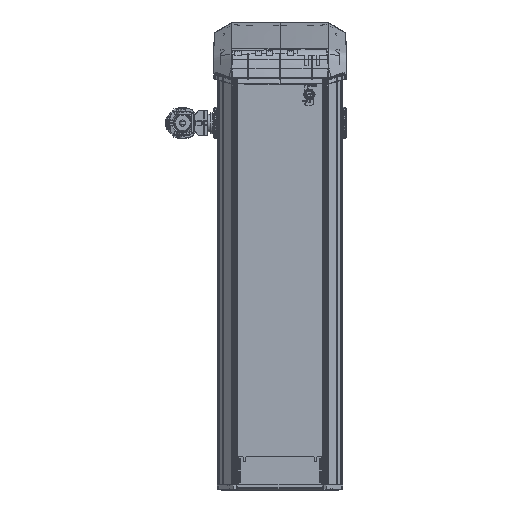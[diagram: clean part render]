
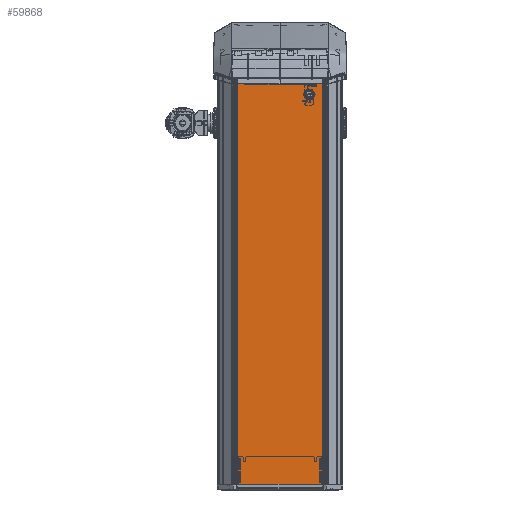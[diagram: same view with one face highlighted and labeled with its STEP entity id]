
A CAD part, front view. The second image highlights one B-rep face of the part: STEP entity #59868.
In plain terms, the highlighted planar face has unit normal (0, -1, 0) as drawn and (0, 1, 0) by its records, which use the part's own axes.
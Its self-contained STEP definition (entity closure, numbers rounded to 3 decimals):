
#3596=CIRCLE('',#66683,1.75);
#3597=CIRCLE('',#66684,10.);
#3598=CIRCLE('',#66685,10.);
#9250=ORIENTED_EDGE('',*,*,#25214,.T.);
#9251=ORIENTED_EDGE('',*,*,#25215,.F.);
#9252=ORIENTED_EDGE('',*,*,#25216,.F.);
#9253=ORIENTED_EDGE('',*,*,#25217,.F.);
#9254=ORIENTED_EDGE('',*,*,#25218,.F.);
#9255=ORIENTED_EDGE('',*,*,#25195,.F.);
#9256=ORIENTED_EDGE('',*,*,#25219,.T.);
#9257=ORIENTED_EDGE('',*,*,#25189,.F.);
#9258=ORIENTED_EDGE('',*,*,#25220,.T.);
#9259=ORIENTED_EDGE('',*,*,#25203,.F.);
#9260=ORIENTED_EDGE('',*,*,#25221,.T.);
#9261=ORIENTED_EDGE('',*,*,#25199,.F.);
#9262=ORIENTED_EDGE('',*,*,#25222,.T.);
#25189=EDGE_CURVE('',#33416,#33417,#38925,.T.);
#25195=EDGE_CURVE('',#33422,#33423,#38931,.T.);
#25199=EDGE_CURVE('',#33426,#33427,#38935,.T.);
#25203=EDGE_CURVE('',#33430,#33431,#38939,.T.);
#25214=EDGE_CURVE('',#33437,#33437,#3596,.T.);
#25215=EDGE_CURVE('',#33438,#33439,#38947,.T.);
#25216=EDGE_CURVE('',#33440,#33438,#3597,.T.);
#25217=EDGE_CURVE('',#33441,#33440,#38948,.T.);
#25218=EDGE_CURVE('',#33439,#33441,#3598,.T.);
#25219=EDGE_CURVE('',#33422,#33417,#38949,.F.);
#25220=EDGE_CURVE('',#33416,#33431,#38950,.F.);
#25221=EDGE_CURVE('',#33430,#33427,#38951,.F.);
#25222=EDGE_CURVE('',#33426,#33423,#38952,.F.);
#33416=VERTEX_POINT('',#100981);
#33417=VERTEX_POINT('',#100982);
#33422=VERTEX_POINT('',#100993);
#33423=VERTEX_POINT('',#100995);
#33426=VERTEX_POINT('',#101002);
#33427=VERTEX_POINT('',#101004);
#33430=VERTEX_POINT('',#101011);
#33431=VERTEX_POINT('',#101013);
#33437=VERTEX_POINT('',#101032);
#33438=VERTEX_POINT('',#101034);
#33439=VERTEX_POINT('',#101035);
#33440=VERTEX_POINT('',#101037);
#33441=VERTEX_POINT('',#101039);
#38925=LINE('',#100980,#44408);
#38931=LINE('',#100994,#44414);
#38935=LINE('',#101003,#44418);
#38939=LINE('',#101012,#44422);
#38947=LINE('',#101033,#44430);
#38948=LINE('',#101038,#44431);
#38949=LINE('',#101041,#44432);
#38950=LINE('',#101042,#44433);
#38951=LINE('',#101043,#44434);
#38952=LINE('',#101044,#44435);
#44408=VECTOR('',#74786,1000.);
#44414=VECTOR('',#74794,1000.);
#44418=VECTOR('',#74800,1000.);
#44422=VECTOR('',#74806,1000.);
#44430=VECTOR('',#74826,1000.);
#44431=VECTOR('',#74829,1000.);
#44432=VECTOR('',#74832,1000.);
#44433=VECTOR('',#74833,1000.);
#44434=VECTOR('',#74834,1000.);
#44435=VECTOR('',#74835,1000.);
#49826=EDGE_LOOP('',(#9250));
#49827=EDGE_LOOP('',(#9251,#9252,#9253,#9254));
#49828=EDGE_LOOP('',(#9255,#9256,#9257,#9258,#9259,#9260,#9261,#9262));
#53971=FACE_BOUND('',#49826,.T.);
#53972=FACE_BOUND('',#49827,.T.);
#53973=FACE_BOUND('',#49828,.T.);
#57651=PLANE('',#66682);
#59868=ADVANCED_FACE('',(#53971,#53972,#53973),#57651,.F.);
#66682=AXIS2_PLACEMENT_3D('',#101030,#74822,#74823);
#66683=AXIS2_PLACEMENT_3D('',#101031,#74824,#74825);
#66684=AXIS2_PLACEMENT_3D('',#101036,#74827,#74828);
#66685=AXIS2_PLACEMENT_3D('',#101040,#74830,#74831);
#74786=DIRECTION('',(0.,0.,-1.));
#74794=DIRECTION('',(1.,0.,0.));
#74800=DIRECTION('',(0.,0.,1.));
#74806=DIRECTION('',(-1.,0.,0.));
#74822=DIRECTION('',(0.,-1.,0.));
#74823=DIRECTION('',(0.,0.,-1.));
#74824=DIRECTION('',(0.,-1.,0.));
#74825=DIRECTION('',(0.,0.,-1.));
#74826=DIRECTION('',(0.,0.,1.));
#74827=DIRECTION('',(0.,1.,0.));
#74828=DIRECTION('',(1.,0.,0.));
#74829=DIRECTION('',(0.,0.,-1.));
#74830=DIRECTION('',(0.,1.,0.));
#74831=DIRECTION('',(1.,0.,0.));
#74832=DIRECTION('',(0.707,0.,-0.707));
#74833=DIRECTION('',(-0.707,0.,-0.707));
#74834=DIRECTION('',(-0.707,0.,0.707));
#74835=DIRECTION('',(0.707,0.,0.707));
#100980=CARTESIAN_POINT('',(-108.,0.,968.5));
#100981=CARTESIAN_POINT('',(-108.,0.,966.5));
#100982=CARTESIAN_POINT('',(-108.,0.,2.));
#100993=CARTESIAN_POINT('',(-106.,0.,0.));
#100994=CARTESIAN_POINT('',(-108.,0.,0.));
#100995=CARTESIAN_POINT('',(106.,0.,0.));
#101002=CARTESIAN_POINT('',(108.,0.,2.));
#101003=CARTESIAN_POINT('',(108.,0.,0.));
#101004=CARTESIAN_POINT('',(108.,0.,966.5));
#101011=CARTESIAN_POINT('',(106.,0.,968.5));
#101012=CARTESIAN_POINT('',(108.,0.,968.5));
#101013=CARTESIAN_POINT('',(-106.,0.,968.5));
#101030=CARTESIAN_POINT('',(-108.,0.,0.));
#101031=CARTESIAN_POINT('',(103.,0.,958.5));
#101032=CARTESIAN_POINT('',(103.,0.,956.75));
#101033=CARTESIAN_POINT('',(60.5,0.,34.741));
#101034=CARTESIAN_POINT('',(60.5,0.,34.741));
#101035=CARTESIAN_POINT('',(60.5,0.,43.459));
#101036=CARTESIAN_POINT('',(69.5,0.,39.1));
#101037=CARTESIAN_POINT('',(78.5,0.,34.741));
#101038=CARTESIAN_POINT('',(78.5,0.,34.741));
#101039=CARTESIAN_POINT('',(78.5,0.,43.459));
#101040=CARTESIAN_POINT('',(69.5,0.,39.1));
#101041=CARTESIAN_POINT('',(-106.,0.,0.));
#101042=CARTESIAN_POINT('',(-108.,0.,966.5));
#101043=CARTESIAN_POINT('',(106.,0.,968.5));
#101044=CARTESIAN_POINT('',(108.,0.,2.));
